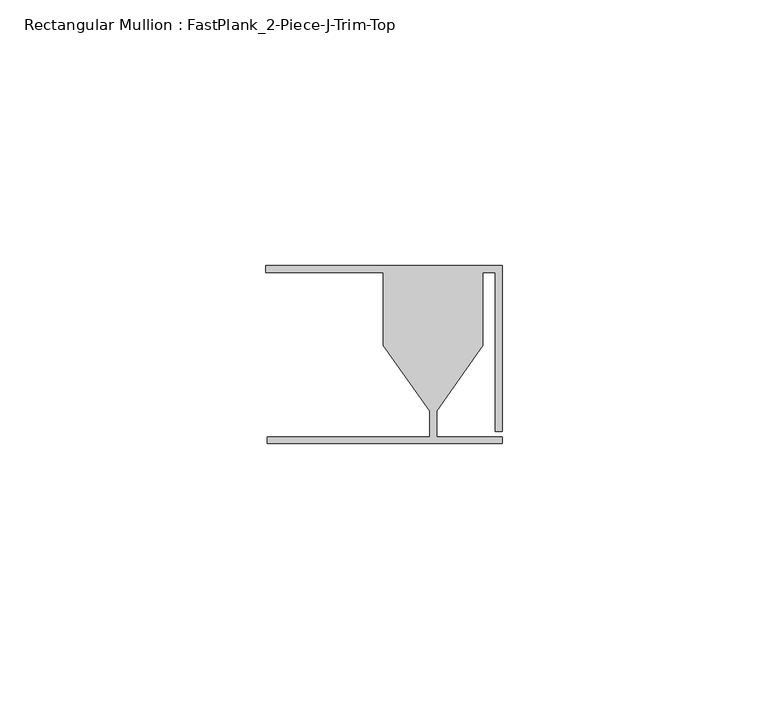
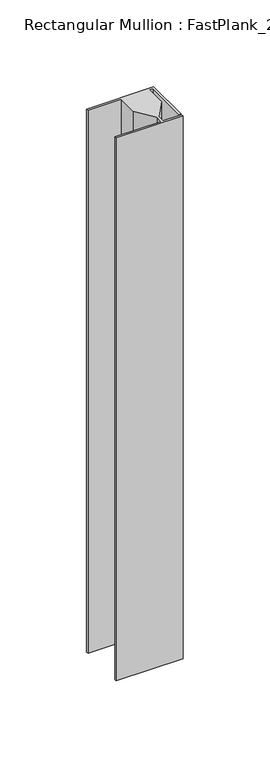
"""IFC4 building model written with IfcOpenShell, lengths in millimetres: member geometry, Rectangular Mullion : FastPlank_2-Piece-J-Trim-Top."""

from ifc_helpers import new_model, si_unit, frame, origin, place, context, project, spatial, polyline, outline, extrude, source, transform, mapped, element, save


def rectangular_mullion_fastplank_2_piece_j_trim_top_4e6e8a7a(model_context):
    return source(origin(), model_context, "Body", "SweptSolid", [
        extrude(outline(polyline([(0.0, -11.8625052), (-44.2023711, -11.8625052), (-44.2023711, -10.5618154), (-13.6176438, -10.5618154), (-13.6176438, -5.7038113), (-22.3299553, 6.6543757), (-22.3299553, 20.3381228), (-44.4475015, 20.3381228), (-44.4475015, 21.6381202), (0.0, 21.6381202), (0.0, -9.5619969), (-1.2999974, -9.5619969), (-1.2999974, 20.3381228), (-3.6053348, 20.3381228), (-3.6053348, 6.6543757), (-12.3176464, -5.7038113), (-12.3176464, -10.5618154), (0.0, -10.5618154), (0.0, -11.8625052)])), frame((0.0, 0.0, -381.0), z_axis=(0.0, 0.0, 1.0), x_axis=(1.0, 0.0, 0.0)), (0.0, 0.0, 1.0), 381.0),
    ])


if __name__ == "__main__":
    model = new_model("IFC4")
    model_context = context("Model", 3, world=origin())
    ifc_project = project(units=[si_unit("LENGTHUNIT", "METRE", prefix="MILLI")], contexts=[model_context])
    site = spatial("IfcSite", under=ifc_project)
    building = spatial("IfcBuilding", under=site)
    placement = place(None, origin())
    rectangular_mullion_fastplank_2_piece_j_trim_top_shape = rectangular_mullion_fastplank_2_piece_j_trim_top_4e6e8a7a(model_context)
    element("IfcMember", 1, ObjectType="Rectangular Mullion : FastPlank_2-Piece-J-Trim-Top", at=placement, inside=building, context=model_context, shape_type="MappedRepresentation", body=[
        mapped(rectangular_mullion_fastplank_2_piece_j_trim_top_shape, transform((0.0, 0.0, 0.0), x_axis=(1.0, 0.0, 0.0), y_axis=(0.0, 1.0, 0.0), z_axis=(0.0, 0.0, 1.0))),
    ])
    save(model, "model.ifc")
